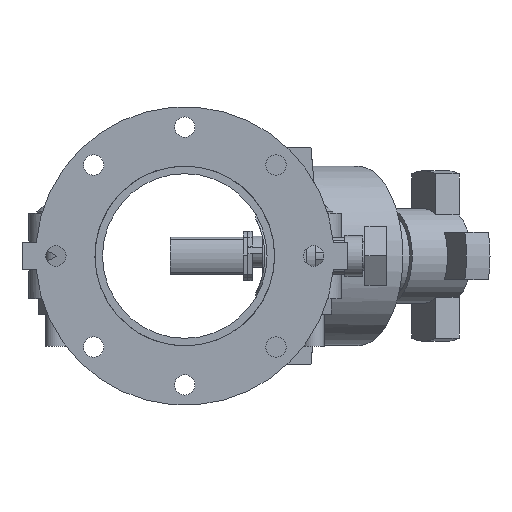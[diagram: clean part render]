
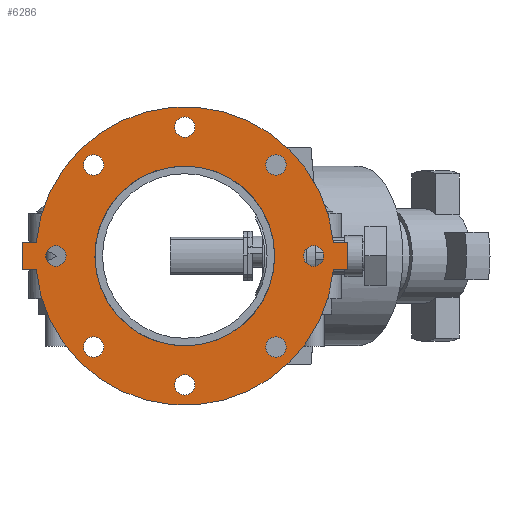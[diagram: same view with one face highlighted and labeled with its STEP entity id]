
A CAD part, front view. The second image highlights one B-rep face of the part: STEP entity #6286.
In plain terms, the highlighted planar face has unit normal (0, -1, 0) as drawn and (0, 0, 1) by its records, which use the part's own axes.
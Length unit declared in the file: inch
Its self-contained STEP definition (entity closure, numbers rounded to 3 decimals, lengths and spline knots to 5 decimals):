
#197=FACE_BOUND('',#831,.T.);
#198=FACE_BOUND('',#832,.T.);
#199=FACE_BOUND('',#833,.T.);
#200=FACE_BOUND('',#834,.T.);
#201=FACE_BOUND('',#835,.T.);
#202=FACE_BOUND('',#836,.T.);
#203=FACE_BOUND('',#837,.T.);
#204=FACE_BOUND('',#838,.T.);
#205=FACE_BOUND('',#839,.T.);
#265=PLANE('',#6825);
#479=FACE_OUTER_BOUND('',#830,.T.);
#830=EDGE_LOOP('',(#4104,#4105,#4106,#4107,#4108,#4109,#4110,#4111));
#831=EDGE_LOOP('',(#4112));
#832=EDGE_LOOP('',(#4113));
#833=EDGE_LOOP('',(#4114));
#834=EDGE_LOOP('',(#4115));
#835=EDGE_LOOP('',(#4116));
#836=EDGE_LOOP('',(#4117));
#837=EDGE_LOOP('',(#4118));
#838=EDGE_LOOP('',(#4119));
#839=EDGE_LOOP('',(#4120,#4121));
#1235=LINE('',#9580,#1716);
#1236=LINE('',#9583,#1717);
#1239=LINE('',#9588,#1720);
#1240=LINE('',#9591,#1721);
#1242=LINE('',#9594,#1723);
#1243=LINE('',#9596,#1724);
#1716=VECTOR('',#7621,0.3937);
#1717=VECTOR('',#7624,0.3937);
#1720=VECTOR('',#7629,0.3937);
#1721=VECTOR('',#7632,0.3937);
#1723=VECTOR('',#7636,0.3937);
#1724=VECTOR('',#7639,0.3937);
#2177=CIRCLE('',#6784,0.375);
#2179=CIRCLE('',#6787,0.375);
#2181=CIRCLE('',#6790,0.375);
#2183=CIRCLE('',#6793,0.375);
#2185=CIRCLE('',#6796,0.375);
#2187=CIRCLE('',#6799,0.375);
#2189=CIRCLE('',#6802,0.375);
#2191=CIRCLE('',#6805,0.375);
#2197=CIRCLE('',#6813,5.5);
#2198=CIRCLE('',#6815,3.3125);
#2199=CIRCLE('',#6816,3.3125);
#2200=CIRCLE('',#6818,5.5);
#2520=VERTEX_POINT('',#9491);
#2522=VERTEX_POINT('',#9497);
#2524=VERTEX_POINT('',#9503);
#2526=VERTEX_POINT('',#9509);
#2528=VERTEX_POINT('',#9515);
#2530=VERTEX_POINT('',#9521);
#2532=VERTEX_POINT('',#9527);
#2534=VERTEX_POINT('',#9533);
#2546=VERTEX_POINT('',#9560);
#2547=VERTEX_POINT('',#9562);
#2548=VERTEX_POINT('',#9566);
#2549=VERTEX_POINT('',#9568);
#2550=VERTEX_POINT('',#9572);
#2551=VERTEX_POINT('',#9574);
#2552=VERTEX_POINT('',#9578);
#2553=VERTEX_POINT('',#9582);
#2554=VERTEX_POINT('',#9586);
#2555=VERTEX_POINT('',#9590);
#3123=EDGE_CURVE('',#2520,#2520,#2177,.T.);
#3126=EDGE_CURVE('',#2522,#2522,#2179,.T.);
#3129=EDGE_CURVE('',#2524,#2524,#2181,.T.);
#3132=EDGE_CURVE('',#2526,#2526,#2183,.T.);
#3135=EDGE_CURVE('',#2528,#2528,#2185,.T.);
#3138=EDGE_CURVE('',#2530,#2530,#2187,.T.);
#3141=EDGE_CURVE('',#2532,#2532,#2189,.T.);
#3144=EDGE_CURVE('',#2534,#2534,#2191,.T.);
#3159=EDGE_CURVE('',#2546,#2547,#2197,.T.);
#3161=EDGE_CURVE('',#2549,#2548,#2198,.T.);
#3162=EDGE_CURVE('',#2548,#2549,#2199,.T.);
#3164=EDGE_CURVE('',#2551,#2550,#2200,.T.);
#3167=EDGE_CURVE('',#2547,#2552,#1235,.T.);
#3168=EDGE_CURVE('',#2553,#2551,#1236,.T.);
#3171=EDGE_CURVE('',#2550,#2554,#1239,.T.);
#3172=EDGE_CURVE('',#2555,#2546,#1240,.T.);
#3174=EDGE_CURVE('',#2554,#2555,#1242,.T.);
#3175=EDGE_CURVE('',#2552,#2553,#1243,.T.);
#4104=ORIENTED_EDGE('',*,*,#3171,.T.);
#4105=ORIENTED_EDGE('',*,*,#3174,.T.);
#4106=ORIENTED_EDGE('',*,*,#3172,.T.);
#4107=ORIENTED_EDGE('',*,*,#3159,.T.);
#4108=ORIENTED_EDGE('',*,*,#3167,.T.);
#4109=ORIENTED_EDGE('',*,*,#3175,.T.);
#4110=ORIENTED_EDGE('',*,*,#3168,.T.);
#4111=ORIENTED_EDGE('',*,*,#3164,.T.);
#4112=ORIENTED_EDGE('',*,*,#3123,.T.);
#4113=ORIENTED_EDGE('',*,*,#3126,.T.);
#4114=ORIENTED_EDGE('',*,*,#3129,.T.);
#4115=ORIENTED_EDGE('',*,*,#3132,.T.);
#4116=ORIENTED_EDGE('',*,*,#3135,.T.);
#4117=ORIENTED_EDGE('',*,*,#3138,.T.);
#4118=ORIENTED_EDGE('',*,*,#3141,.T.);
#4119=ORIENTED_EDGE('',*,*,#3144,.T.);
#4120=ORIENTED_EDGE('',*,*,#3161,.T.);
#4121=ORIENTED_EDGE('',*,*,#3162,.T.);
#6286=ADVANCED_FACE('',(#479,#197,#198,#199,#200,#201,#202,#203,#204,#205),
#265,.T.);
#6784=AXIS2_PLACEMENT_3D('',#9492,#7529,#7530);
#6787=AXIS2_PLACEMENT_3D('',#9498,#7536,#7537);
#6790=AXIS2_PLACEMENT_3D('',#9504,#7543,#7544);
#6793=AXIS2_PLACEMENT_3D('',#9510,#7550,#7551);
#6796=AXIS2_PLACEMENT_3D('',#9516,#7557,#7558);
#6799=AXIS2_PLACEMENT_3D('',#9522,#7564,#7565);
#6802=AXIS2_PLACEMENT_3D('',#9528,#7571,#7572);
#6805=AXIS2_PLACEMENT_3D('',#9534,#7578,#7579);
#6813=AXIS2_PLACEMENT_3D('',#9564,#7603,#7604);
#6815=AXIS2_PLACEMENT_3D('',#9569,#7608,#7609);
#6816=AXIS2_PLACEMENT_3D('',#9570,#7610,#7611);
#6818=AXIS2_PLACEMENT_3D('',#9575,#7615,#7616);
#6825=AXIS2_PLACEMENT_3D('',#9597,#7640,#7641);
#7529=DIRECTION('center_axis',(0.,0.,-1.));
#7530=DIRECTION('ref_axis',(-0.707,0.707,0.));
#7536=DIRECTION('center_axis',(0.,0.,-1.));
#7537=DIRECTION('ref_axis',(0.,1.,0.));
#7543=DIRECTION('center_axis',(0.,0.,-1.));
#7544=DIRECTION('ref_axis',(0.707,0.707,0.));
#7550=DIRECTION('center_axis',(0.,0.,-1.));
#7551=DIRECTION('ref_axis',(1.,0.,0.));
#7557=DIRECTION('center_axis',(0.,0.,-1.));
#7558=DIRECTION('ref_axis',(0.707,-0.707,0.));
#7564=DIRECTION('center_axis',(0.,0.,-1.));
#7565=DIRECTION('ref_axis',(0.,-1.,0.));
#7571=DIRECTION('center_axis',(0.,0.,-1.));
#7572=DIRECTION('ref_axis',(-0.707,-0.707,0.));
#7578=DIRECTION('center_axis',(0.,0.,-1.));
#7579=DIRECTION('ref_axis',(-1.,0.,0.));
#7603=DIRECTION('center_axis',(0.,0.,1.));
#7604=DIRECTION('ref_axis',(-1.,0.,0.));
#7608=DIRECTION('center_axis',(0.,0.,-1.));
#7609=DIRECTION('ref_axis',(-1.,0.,0.));
#7610=DIRECTION('center_axis',(0.,0.,-1.));
#7611=DIRECTION('ref_axis',(-1.,0.,0.));
#7615=DIRECTION('center_axis',(0.,0.,1.));
#7616=DIRECTION('ref_axis',(-1.,0.,0.));
#7621=DIRECTION('',(0.,1.,0.));
#7624=DIRECTION('',(0.,-1.,0.));
#7629=DIRECTION('',(0.,-1.,0.));
#7632=DIRECTION('',(0.,1.,0.));
#7636=DIRECTION('',(1.,0.,0.));
#7639=DIRECTION('',(-1.,0.,0.));
#7640=DIRECTION('center_axis',(0.,0.,1.));
#7641=DIRECTION('ref_axis',(1.,0.,0.));
#9491=CARTESIAN_POINT('',(-3.09359,3.09359,0.5));
#9492=CARTESIAN_POINT('Origin',(-3.35876,3.35876,0.5));
#9497=CARTESIAN_POINT('',(0.,4.375,0.5));
#9498=CARTESIAN_POINT('Origin',(0.,4.75,0.5));
#9503=CARTESIAN_POINT('',(3.09359,3.09359,0.5));
#9504=CARTESIAN_POINT('Origin',(3.35876,3.35876,0.5));
#9509=CARTESIAN_POINT('',(4.375,0.,0.5));
#9510=CARTESIAN_POINT('Origin',(4.75,0.,0.5));
#9515=CARTESIAN_POINT('',(3.09359,-3.09359,0.5));
#9516=CARTESIAN_POINT('Origin',(3.35876,-3.35876,0.5));
#9521=CARTESIAN_POINT('',(0.,-4.375,0.5));
#9522=CARTESIAN_POINT('Origin',(0.,-4.75,0.5));
#9527=CARTESIAN_POINT('',(-3.09359,-3.09359,0.5));
#9528=CARTESIAN_POINT('Origin',(-3.35876,-3.35876,0.5));
#9533=CARTESIAN_POINT('',(-4.375,0.,0.5));
#9534=CARTESIAN_POINT('Origin',(-4.75,0.,0.5));
#9560=CARTESIAN_POINT('',(0.5,-5.47723,0.5));
#9562=CARTESIAN_POINT('',(0.5,5.47723,0.5));
#9564=CARTESIAN_POINT('Origin',(0.,0.,0.5));
#9566=CARTESIAN_POINT('',(3.3125,0.,0.5));
#9568=CARTESIAN_POINT('',(0.5,3.27455,0.5));
#9569=CARTESIAN_POINT('Origin',(0.,0.,0.5));
#9570=CARTESIAN_POINT('Origin',(0.,0.,0.5));
#9572=CARTESIAN_POINT('',(-0.5,-5.47723,0.5));
#9574=CARTESIAN_POINT('',(-0.5,5.47723,0.5));
#9575=CARTESIAN_POINT('Origin',(0.,0.,0.5));
#9578=CARTESIAN_POINT('',(0.5,6.,0.5));
#9580=CARTESIAN_POINT('',(0.5,6.,0.5));
#9582=CARTESIAN_POINT('',(-0.5,6.,0.5));
#9583=CARTESIAN_POINT('',(-0.5,-6.,0.5));
#9586=CARTESIAN_POINT('',(-0.5,-6.,0.5));
#9588=CARTESIAN_POINT('',(-0.5,-6.,0.5));
#9590=CARTESIAN_POINT('',(0.5,-6.,0.5));
#9591=CARTESIAN_POINT('',(0.5,6.,0.5));
#9594=CARTESIAN_POINT('',(0.5,-6.,0.5));
#9596=CARTESIAN_POINT('',(-0.5,6.,0.5));
#9597=CARTESIAN_POINT('Origin',(0.,0.,0.5));
